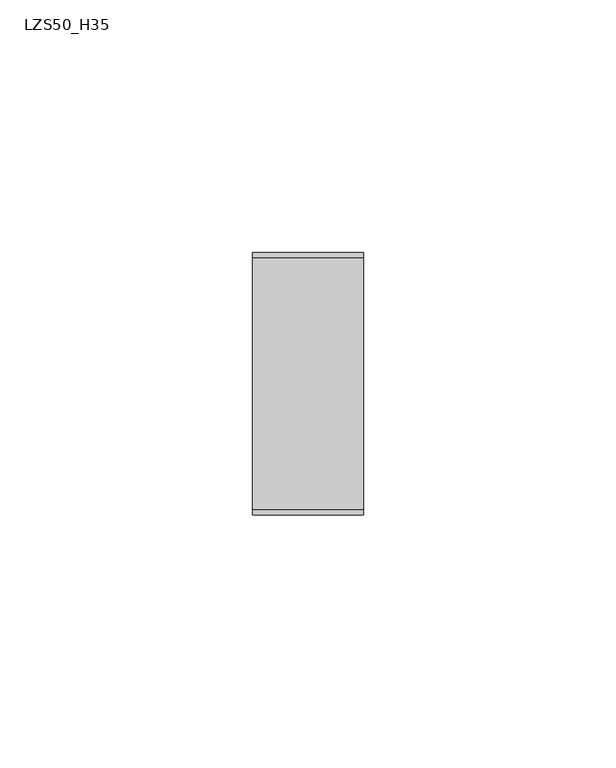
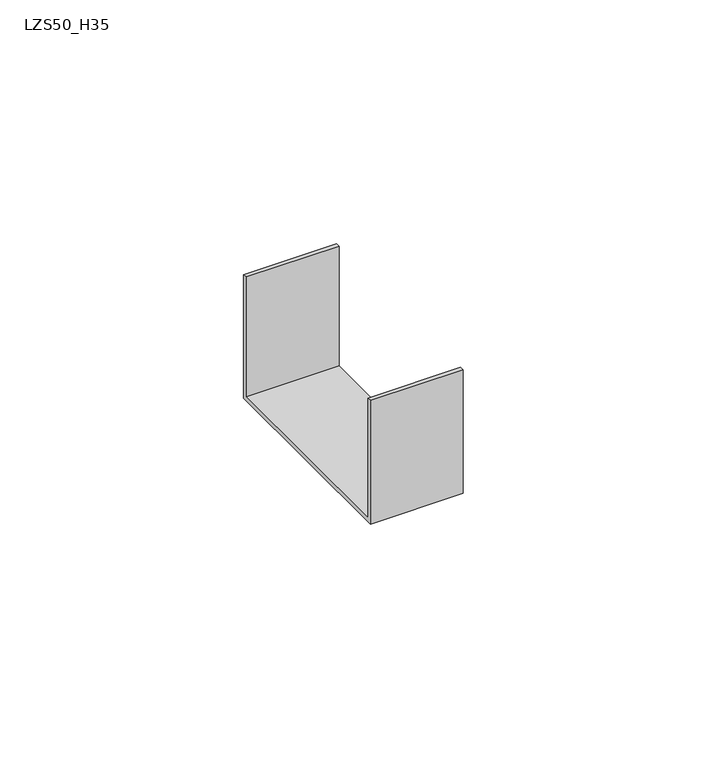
"""IFC4 building model written with IfcOpenShell, lengths in millimetres: cable carrier fitting geometry, BAKS_Snap-in connector_LZS : LZS50_H35."""

import ifcopenshell
import ifcopenshell.guid

model = None  # the IFC model being written
_history = None  # IfcOwnerHistory: only IFC2X3 demands one
_inside = {}  # id of a spatial element -> (the spatial element, [elements in it])
_under = {}  # id of a project, library or spatial element -> (it, [spatial elements below it])
_declared = {}  # id of a project -> (the project, [libraries it declares])
_typed = {}  # id of a type object -> (the type object, [elements of that type])
_made_of = {}  # id of a material, layer set ... -> (it, [elements and type objects made of it])


def new_model(schema):
    """Start an empty IFC model of exactly this schema.

    Asked for "IFC4X3", IfcOpenShell would pick the latest addendum, in which some entities
    have other attributes; the version numbers below select the first issue.
    IFC2X3 requires an IfcOwnerHistory on every rooted entity: one is made here for all.
    """
    global model, _history
    if schema == "IFC4X3":
        model = ifcopenshell.file(schema_version=(4, 3, 0, 0))
    else:
        model = ifcopenshell.file(schema=schema)
    _inside.clear()
    _under.clear()
    _declared.clear()
    _typed.clear()
    _made_of.clear()
    _history = None
    if model.schema == "IFC2X3":
        org = make("IfcOrganization", Name="unknown")
        user = make(
            "IfcPersonAndOrganization",
            ThePerson=make("IfcPerson", FamilyName="unknown"),
            TheOrganization=org,
        )
        app = make(
            "IfcApplication",
            ApplicationDeveloper=org,
            Version="unknown",
            ApplicationFullName="unknown",
            ApplicationIdentifier="unknown",
        )
        _history = make(
            "IfcOwnerHistory",
            OwningUser=user,
            OwningApplication=app,
            ChangeAction="ADDED",
            CreationDate=0,
        )
    return model


def make(cls, **values):
    """One entity of the class cls with the attributes given. An attribute that is None is left unset."""
    return model.create_entity(
        cls, **{name: value for name, value in values.items() if value is not None}
    )


def rooted(cls, **values):
    """An entity with a GlobalId (a new one), such as an element, a storey or a relation."""
    return make(cls, GlobalId=ifcopenshell.guid.new(), OwnerHistory=_history, **values)


def si_unit(unit_type, name, prefix=None):
    """IfcSIUnit, for example si_unit("LENGTHUNIT", "METRE", prefix="MILLI")."""
    return make("IfcSIUnit", UnitType=unit_type, Prefix=prefix, Name=name)


def assignment(units):
    """IfcUnitAssignment: the units of a project."""
    return None if units is None else make("IfcUnitAssignment", Units=units)


def point(xyz):
    """IfcCartesianPoint."""
    return None if xyz is None else make("IfcCartesianPoint", Coordinates=xyz)


def direction(xyz):
    """IfcDirection."""
    return None if xyz is None else make("IfcDirection", DirectionRatios=xyz)


def frame(location, z_axis=None, x_axis=None):
    """IfcAxis2Placement3D, a coordinate frame: its origin and axes. An axis left out is left unset."""
    return make(
        "IfcAxis2Placement3D",
        Location=point(location),
        Axis=direction(z_axis),
        RefDirection=direction(x_axis),
    )


def origin():
    """The frame at (0, 0, 0) with its axes left unset."""
    return frame((0.0, 0.0, 0.0))


def place(relative_to, where):
    """IfcLocalPlacement: puts the frame where relative to a parent placement (None: the world)."""
    return make(
        "IfcLocalPlacement", PlacementRelTo=relative_to, RelativePlacement=where
    )


def context(
    kind, dimensions, precision=None, world=None, true_north=None, identifier=None
):
    """IfcGeometricRepresentationContext, for example the 3D "Model" context."""
    return make(
        "IfcGeometricRepresentationContext",
        ContextIdentifier=identifier,
        ContextType=kind,
        CoordinateSpaceDimension=dimensions,
        Precision=precision,
        WorldCoordinateSystem=world,
        TrueNorth=true_north,
    )


def project(units=None, contexts=None):
    """IfcProject with its units and contexts."""
    return rooted(
        "IfcProject",
        Name="project",
        RepresentationContexts=contexts,
        UnitsInContext=assignment(units),
    )


def spatial(cls, under=None, at=None, **own):
    """A site, building, storey or space (cls), placed at a placement, below another one or the project."""
    s = rooted(cls, ObjectPlacement=at, **own)
    if under is not None:
        _under.setdefault(under.id(), (under, []))[1].append(s)
    return s


def polyline(points):
    """IfcPolyline through the points."""
    return make("IfcPolyline", Points=[point(p) for p in points])


def outline(outer, holes=None, kind="AREA"):
    """IfcArbitraryClosedProfileDef: a profile drawn as a closed curve; with holes, ...WithVoids."""
    if holes is None:
        return make("IfcArbitraryClosedProfileDef", ProfileType=kind, OuterCurve=outer)
    return make(
        "IfcArbitraryProfileDefWithVoids",
        ProfileType=kind,
        OuterCurve=outer,
        InnerCurves=holes,
    )


def extrude(swept, where, along, depth):
    """IfcExtrudedAreaSolid: the profile swept, set in the frame where, extruded along a direction by depth."""
    return make(
        "IfcExtrudedAreaSolid",
        SweptArea=swept,
        Position=where,
        ExtrudedDirection=direction(along),
        Depth=depth,
    )


def shape(context_of_items, identifier, shape_type, items):
    """IfcShapeRepresentation: the items that make up one representation, for example the "Body"."""
    return make(
        "IfcShapeRepresentation",
        ContextOfItems=context_of_items,
        RepresentationIdentifier=identifier,
        RepresentationType=shape_type,
        Items=items,
    )


def source(mapping_origin, context_of_items, identifier, shape_type, items):
    """IfcRepresentationMap: a shape defined once, which mapped items show again and again."""
    return make(
        "IfcRepresentationMap",
        MappingOrigin=mapping_origin,
        MappedRepresentation=shape(context_of_items, identifier, shape_type, items),
    )


def transform(
    local_origin,
    x_axis=None,
    y_axis=None,
    z_axis=None,
    scale=None,
    scale2=None,
    scale3=None,
    uniform=True,
):
    """IfcCartesianTransformationOperator3D, or its non-uniform kind. x_axis, y_axis, z_axis: its Axis1, 2, 3."""
    if uniform:
        return make(
            "IfcCartesianTransformationOperator3D",
            Axis1=direction(x_axis),
            Axis2=direction(y_axis),
            LocalOrigin=point(local_origin),
            Scale=scale,
            Axis3=direction(z_axis),
        )
    return make(
        "IfcCartesianTransformationOperator3DnonUniform",
        Axis1=direction(x_axis),
        Axis2=direction(y_axis),
        LocalOrigin=point(local_origin),
        Scale=scale,
        Axis3=direction(z_axis),
        Scale2=scale2,
        Scale3=scale3,
    )


def mapped(mapping_source, mapping_target):
    """IfcMappedItem: shows the shape of a source again, moved by a transform."""
    return make(
        "IfcMappedItem", MappingSource=mapping_source, MappingTarget=mapping_target
    )


def made_of(thing, what):
    """Note that an element or type object is made of a material, layer set ...; save() writes the relation."""
    if what is not None:
        _made_of.setdefault(what.id(), (what, []))[1].append(thing)
    return thing


def element(
    cls,
    number,
    at=None,
    inside=None,
    cuts=None,
    type_object=None,
    material=None,
    context=None,
    identifier="Body",
    shape_type=None,
    held_by="IfcProductDefinitionShape",
    body=None,
    shapes=None,
    **own,
):
    """One element of the class cls, such as IfcWall. Its Tag is "e" and its number.

    at: its placement. inside: the storey or other place that contains it. cuts: it is an
    opening in that element (IfcRelVoidsElement). A single representation is given by context,
    identifier, shape_type and body (its items); several are given by shapes. held_by: the class
    of the entity that holds the representations. save() writes the other relations.
    """
    e = rooted(cls, Tag="e%d" % number, ObjectPlacement=at, **own)
    if body is not None:
        shapes = [shape(context, identifier, shape_type, body)]
    if shapes is not None:
        e.Representation = make(held_by, Representations=shapes)
    if inside is not None:
        _inside.setdefault(inside.id(), (inside, []))[1].append(e)
    if cuts is not None:
        rooted(
            "IfcRelVoidsElement", RelatingBuildingElement=cuts, RelatedOpeningElement=e
        )
    if type_object is not None:
        _typed.setdefault(type_object.id(), (type_object, []))[1].append(e)
    return made_of(e, material)


def aggregate(whole, parts):
    """IfcRelAggregates: a whole, such as a stair, and the parts it consists of."""
    return rooted("IfcRelAggregates", RelatingObject=whole, RelatedObjects=parts)


def save(model, path):
    """Write the relations noted so far, then the file.

    IfcRelAggregates (storeys below a building ...), IfcRelContainedInSpatialStructure (elements
    in a storey), IfcRelDefinesByType, IfcRelAssociatesMaterial and IfcRelDeclares: one each for
    every whole, place, type object, material and project.
    """
    for whole, parts in _under.values():
        aggregate(whole, parts)
    for where, things in _inside.values():
        rooted(
            "IfcRelContainedInSpatialStructure",
            RelatedElements=things,
            RelatingStructure=where,
        )
    for kind, things in _typed.values():
        rooted("IfcRelDefinesByType", RelatedObjects=things, RelatingType=kind)
    for what, things in _made_of.values():
        rooted("IfcRelAssociatesMaterial", RelatedObjects=things, RelatingMaterial=what)
    for by, libraries in _declared.values():
        rooted("IfcRelDeclares", RelatingContext=by, RelatedDefinitions=libraries)
    model.write(path)


def lzs50_h35_31d5a90a(model_context):
    return source(origin(), model_context, "Body", "SweptSolid", [
        extrude(outline(polyline([(26.0, 12.5), (26.0, -18.5), (-26.0, -18.5), (-26.0, 12.5), (-25.0, 12.5), (-25.0, -17.5), (25.0, -17.5), (25.0, 12.5), (26.0, 12.5)])), frame((-10.5, 0.0, 0.0), z_axis=(1.0, 0.0, 0.0), x_axis=(0.0, 1.0, 0.0)), (0.0, 0.0, 1.0), 22.0),
    ])


if __name__ == "__main__":
    model = new_model("IFC4")
    model_context = context("Model", 3, world=origin())
    ifc_project = project(units=[si_unit("LENGTHUNIT", "METRE", prefix="MILLI")], contexts=[model_context])
    site = spatial("IfcSite", under=ifc_project)
    building = spatial("IfcBuilding", under=site)
    placement = place(None, origin())
    lzs50_h35_shape = lzs50_h35_31d5a90a(model_context)
    element("IfcCableCarrierFitting", 1, ObjectType="BAKS_Snap-in connector_LZS : LZS50_H35", at=placement, inside=building, context=model_context, shape_type="MappedRepresentation", body=[
        mapped(lzs50_h35_shape, transform((0.0, 0.0, 0.0), x_axis=(1.0, 0.0, 0.0), y_axis=(0.0, 1.0, 0.0), z_axis=(0.0, 0.0, 1.0))),
    ])
    save(model, "model.ifc")
